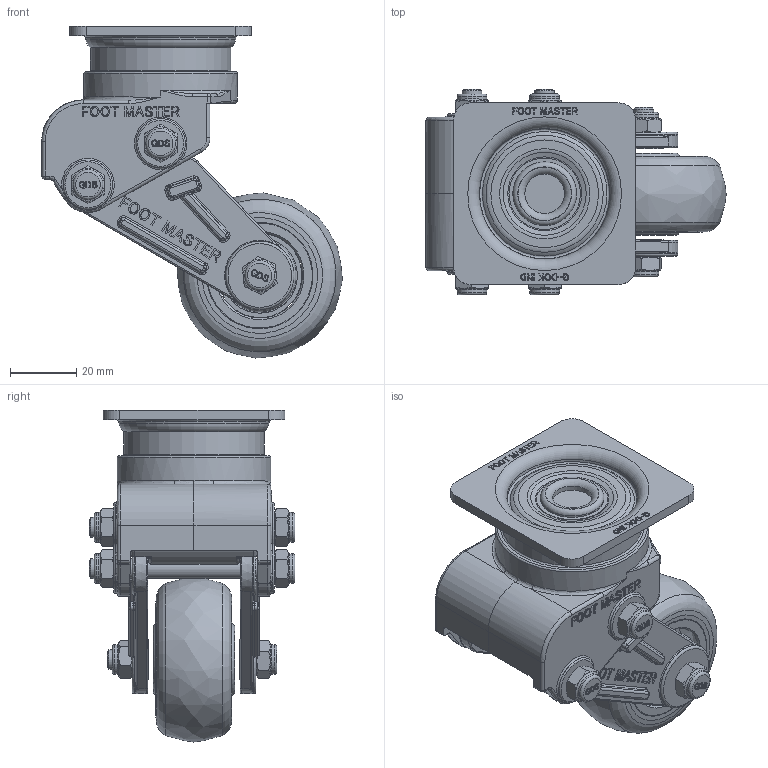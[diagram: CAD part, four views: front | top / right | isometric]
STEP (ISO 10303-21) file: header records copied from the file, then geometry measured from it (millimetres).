
FILE_DESCRIPTION(/* description */ (''),/* implementation_level */ '2;1');
FILE_NAME(/* name */ 'C:\Users\admin\Desktop\JYS\개발품\상세설계_20220328\홈페이지용 도면\GDS-50-ARF-EUS.stp',/* time_stamp */ '2023-03-08T14:33:32+09:00',/* author */ ('admin'),/* organization */ (''),/* preprocessor_version */ 'ST-DEVELOPER v18.1',/* originating_system */ 'Autodesk Inventor 2021',/* authorisation */ '');
FILE_SCHEMA (('AUTOMOTIVE_DESIGN { 1 0 10303 214 3 1 1 }'));
Products named in the file (1): GDS-50_ARF_REV01_Shrinkwrap_1
Bounding box: 90.97 x 62.3 x 100.48 mm (x, y, z)
Volume: 120245.1 mm3; surface area: 44150.1 mm2
Topology: 1 solids, 1 shells, 2042 faces, 5388 edges, 3463 vertices
Faces by surface type: plane 803, bspline 652, cylinder 287, cone 164, torus 116, sphere 20
Full cylindrical faces by diameter (mm): 6 x5, 8.8 x3, 9 x6, 12 x1, 17.216 x2, 18 x1, 19.3 x1, 20 x2, 22 x2, 22.784 x2, 42.5 x1, 46.5 x1
Entity records: 70895 total; most frequent: CARTESIAN_POINT 22499, ORIENTED_EDGE 10752, DIRECTION 7807, EDGE_CURVE 5376, VERTEX_POINT 3463, AXIS2_PLACEMENT_3D 2605, LINE 2597, VECTOR 2597
